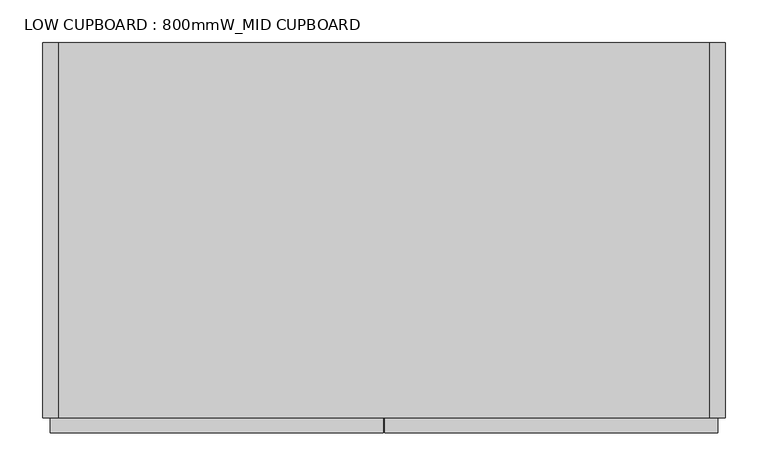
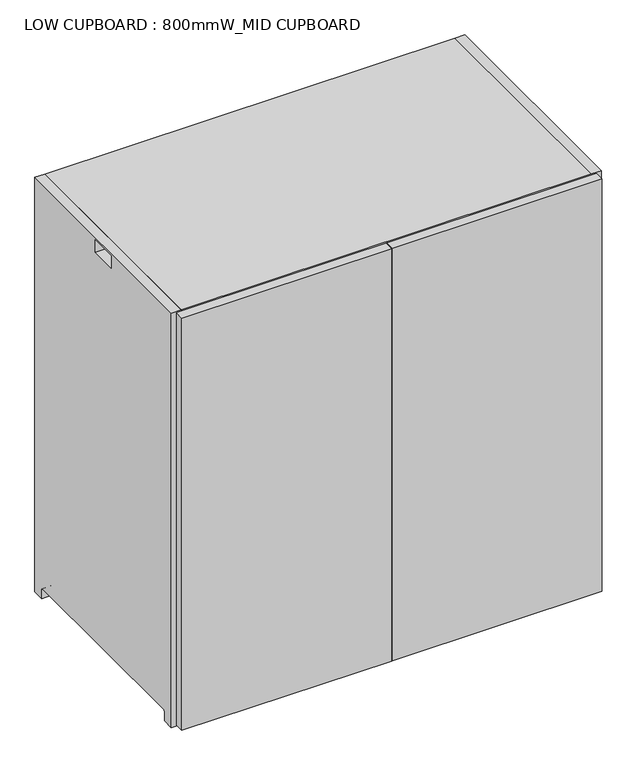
"""IFC4 building model written with IfcOpenShell, lengths in millimetres: furniture geometry, LOW CUPBOARD : 800mmW_MID CUPBOARD."""

from ifc_helpers import new_model, si_unit, point, frame, frame_2d, origin, place, context, project, spatial, polyline, circle_curve, trimmed, segment, composite_curve, outline, extrude, source, transform, mapped, element, save
from ifc_brep_helpers import plane_surface, revolved_surface, advanced_brep


def low_cupboard_800mmw_mid_cupboard_a8ccd5a8(model_context):
    return source(origin(), model_context, "Body", "SolidModel", [
        extrude(outline(composite_curve([segment(polyline([(-220.0, 815.0), (220.0, 815.0), (220.0, 0.0), (198.0, 0.0), (198.0, 17.0)]), True, "CONTINUOUS"), segment(trimmed(circle_curve(frame_2d((194.0, 17.0)), 4.0), [point((198.0, 17.0))], [point((194.0, 21.0))], True, "CARTESIAN"), True, "CONTINUOUS"), segment(polyline([(194.0, 21.0), (-194.0, 21.0)]), True, "CONTINUOUS"), segment(trimmed(circle_curve(frame_2d((-194.0, 17.0)), 4.0), [point((-194.0, 21.0))], [point((-198.0, 17.0))], True, "CARTESIAN"), True, "CONTINUOUS"), segment(polyline([(-198.0, 17.0), (-198.0, 0.0), (-220.0, 0.0), (-220.0, 815.0)]), True, "CONTINUOUS")], self_intersect=False), holes=[polyline([(-26.0, 810.0), (-26.0, 785.0), (26.0, 785.0), (26.0, 810.0), (-26.0, 810.0)])]), frame((-400.0, 0.0, 0.0), z_axis=(1.0, 0.0, 0.0), x_axis=(0.0, 1.0, 0.0)), (0.0, 0.0, 1.0), 18.0),
        advanced_brep(
        [(382.0, 220.0, 18.0), (-382.0, 220.0, 18.0), (-382.0, 197.8729833, 18.0), (-376.1019215, 197.8729833, 18.0), (-376.1019215, -197.8729833, 18.0), (-382.0, -197.8729833, 18.0), (-382.0, -220.0, 18.0), (382.0, -220.0, 18.0), (382.0, 220.0, 0.0), (382.0, -220.0, 0.0), (-382.0, -220.0, 0.0), (-382.0, -198.0, 0.0), (-376.1019215, -198.0, 0.0), (-376.1019215, 198.0, 0.0), (-382.0, 198.0, 0.0), (-382.0, 220.0, 0.0), (-382.0, 198.0, 17.0), (-382.0, -198.0, 17.0), (-376.1019215, 198.0, 17.0), (-376.1019215, -198.0, 17.0)],
        [
            (0, 1),
            (1, 2),
            (2, 3),
            (3, 4),
            (4, 5),
            (5, 6),
            (6, 7),
            (7, 0),
            (8, 9),
            (9, 10),
            (10, 11),
            (11, 12),
            (12, 13),
            (13, 14),
            (14, 15),
            (15, 8),
            (0, 8),
            (15, 1),
            (14, 16),
            (16, 2, circle_curve(frame((-382.0, 194.0, 17.0), z_axis=(1.0, 0.0, 0.0), x_axis=(0.0, 1.0, 0.0)), 4.0)),
            (10, 6),
            (5, 17, circle_curve(frame((-382.0, -194.0, 17.0), z_axis=(1.0, 0.0, 0.0), x_axis=(0.0, 1.0, 0.0)), 4.0)),
            (17, 11),
            (9, 7),
            (18, 13),
            (12, 19),
            (19, 4, circle_curve(frame((-376.1019215, -194.0, 17.0), z_axis=(-1.0, 0.0, 0.0), x_axis=(0.0, 1.0, 0.0)), 4.0)),
            (3, 18, circle_curve(frame((-376.1019215, 194.0, 17.0), z_axis=(-1.0, 0.0, 0.0), x_axis=(0.0, 1.0, 0.0)), 4.0)),
            (19, 17),
            (18, 16),
        ],
        [
            plane_surface(frame((-382.0, 220.0, 18.0), z_axis=(0.0, 0.0, 1.0), x_axis=(-1.0, 0.0, 0.0))),
            plane_surface(frame((-382.0, 220.0, 0.0), z_axis=(0.0, 0.0, -1.0), x_axis=(1.0, 0.0, 0.0))),
            plane_surface(frame((382.0, 220.0, 18.0), z_axis=(0.0, 1.0, 0.0), x_axis=(0.0, 0.0, -1.0))),
            plane_surface(frame((-382.0, 220.0, 18.0), z_axis=(-1.0, 0.0, 0.0), x_axis=(0.0, 0.0, -1.0))),
            plane_surface(frame((-382.0, -220.0, 18.0), z_axis=(0.0, -1.0, 0.0), x_axis=(0.0, 0.0, -1.0))),
            plane_surface(frame((382.0, -220.0, 18.0), z_axis=(1.0, 0.0, 0.0), x_axis=(0.0, 0.0, -1.0))),
            plane_surface(frame((-376.1019215, -190.0, 17.0), z_axis=(-1.0, 0.0, 0.0), x_axis=(0.0, 0.0, 1.0))),
            revolved_surface(polyline([(-376.1019215, -190.0, 17.0), (-382.0, -190.0, 17.0)]), (-406.0458228, -194.0, 17.0), (1.0, 0.0, 0.0)),
            plane_surface(frame((-376.1019215, -198.0, 17.0), z_axis=(0.0, 1.0, 0.0), x_axis=(-1.0, 0.0, 0.0))),
            plane_surface(frame((-376.1019215, 198.0, 0.0), z_axis=(0.0, -1.0, 0.0), x_axis=(-1.0, 0.0, 0.0))),
            revolved_surface(polyline([(-376.1019215, 198.0, 17.0), (-382.0, 198.0, 17.0)]), (-406.0458228, 194.0, 17.0), (1.0, 0.0, 0.0)),
        ],
        [
            (0, [[1, 2, 3, 4, 5, 6, 7, 8]]),
            (1, [[9, 10, 11, 12, 13, 14, 15, 16]]),
            (2, [[-1, 17, -16, 18]]),
            (3, [[-18, -15, 19, 20, -2]]),
            (3, [[21, -6, 22, 23, -11]]),
            (4, [[-7, -21, -10, 24]]),
            (5, [[-8, -24, -9, -17]]),
            (6, [[25, -13, 26, 27, -4, 28]]),
            (7, [[-27, 29, -22, -5]]),
            (8, [[-26, -12, -23, -29]]),
            (9, [[-25, 30, -19, -14]]),
            (10, [[-28, -3, -20, -30]]),
        ],
    ),
        extrude(outline(composite_curve([segment(polyline([(-220.0, 815.0), (220.0, 815.0), (220.0, 0.0), (198.0, 0.0), (198.0, 17.0)]), True, "CONTINUOUS"), segment(trimmed(circle_curve(frame_2d((194.0, 17.0)), 4.0), [point((198.0, 17.0))], [point((194.0, 21.0))], True, "CARTESIAN"), True, "CONTINUOUS"), segment(polyline([(194.0, 21.0), (-194.0, 21.0)]), True, "CONTINUOUS"), segment(trimmed(circle_curve(frame_2d((-194.0, 17.0)), 4.0), [point((-194.0, 21.0))], [point((-198.0, 17.0))], True, "CARTESIAN"), True, "CONTINUOUS"), segment(polyline([(-198.0, 17.0), (-198.0, 0.0), (-220.0, 0.0), (-220.0, 815.0)]), True, "CONTINUOUS")], self_intersect=False), holes=[polyline([(-26.0, 810.0), (-26.0, 785.0), (26.0, 785.0), (26.0, 810.0), (-26.0, 810.0)])]), frame((382.0, 0.0, 0.0), z_axis=(1.0, 0.0, 0.0), x_axis=(0.0, 1.0, 0.0)), (0.0, 0.0, 1.0), 18.0),
        extrude(outline(polyline([(382.0, 220.0), (382.0, 202.0), (-382.0, 202.0), (-382.0, 220.0), (382.0, 220.0)])), frame((0.0, 0.0, 18.0), z_axis=(0.0, 0.0, 1.0), x_axis=(1.0, 0.0, 0.0)), (0.0, 0.0, 1.0), 779.0),
        extrude(outline(polyline([(382.0, 202.0), (382.0, -220.0), (-382.0, -220.0), (-382.0, 202.0), (382.0, 202.0)])), frame((0.0, 0.0, 398.5), z_axis=(0.0, 0.0, 1.0), x_axis=(1.0, 0.0, 0.0)), (0.0, 0.0, 1.0), 18.0),
        extrude(outline(polyline([(382.0, 220.0), (382.0, -220.0), (-382.0, -220.0), (-382.0, 220.0), (382.0, 220.0)])), frame((0.0, 0.0, 797.0), z_axis=(0.0, 0.0, 1.0), x_axis=(1.0, 0.0, 0.0)), (0.0, 0.0, 1.0), 18.0),
        extrude(outline(polyline([(9.0, 202.0), (9.0, -220.0), (-9.0, -220.0), (-9.0, 202.0), (9.0, 202.0)])), frame((0.0, 0.0, 18.0), z_axis=(0.0, 0.0, 1.0), x_axis=(1.0, 0.0, 0.0)), (0.0, 0.0, 1.0), 779.0),
        extrude(outline(polyline([(391.0, -220.0), (391.0, -238.0), (1.0, -238.0), (1.0, -220.0), (391.0, -220.0)])), frame((0.0, 0.0, 2.0), z_axis=(0.0, 0.0, 1.0), x_axis=(1.0, 0.0, 0.0)), (0.0, 0.0, 1.0), 811.0),
        extrude(outline(polyline([(-391.0, -220.0), (-1.0, -220.0), (-1.0, -238.0), (-391.0, -238.0), (-391.0, -220.0)])), frame((0.0, 0.0, 2.0), z_axis=(0.0, 0.0, 1.0), x_axis=(1.0, 0.0, 0.0)), (0.0, 0.0, 1.0), 811.0),
    ])


if __name__ == "__main__":
    model = new_model("IFC4")
    model_context = context("Model", 3, world=origin())
    ifc_project = project(units=[si_unit("LENGTHUNIT", "METRE", prefix="MILLI")], contexts=[model_context])
    site = spatial("IfcSite", under=ifc_project)
    building = spatial("IfcBuilding", under=site)
    placement = place(None, origin())
    low_cupboard_800mmw_mid_cupboard_shape = low_cupboard_800mmw_mid_cupboard_a8ccd5a8(model_context)
    element("IfcFurniture", 1, ObjectType="LOW CUPBOARD : 800mmW_MID CUPBOARD", at=placement, inside=building, context=model_context, shape_type="MappedRepresentation", body=[
        mapped(low_cupboard_800mmw_mid_cupboard_shape, transform((0.0, 0.0, 0.0), x_axis=(1.0, 0.0, 0.0), y_axis=(0.0, 1.0, 0.0), z_axis=(0.0, 0.0, 1.0))),
    ])
    save(model, "model.ifc")
